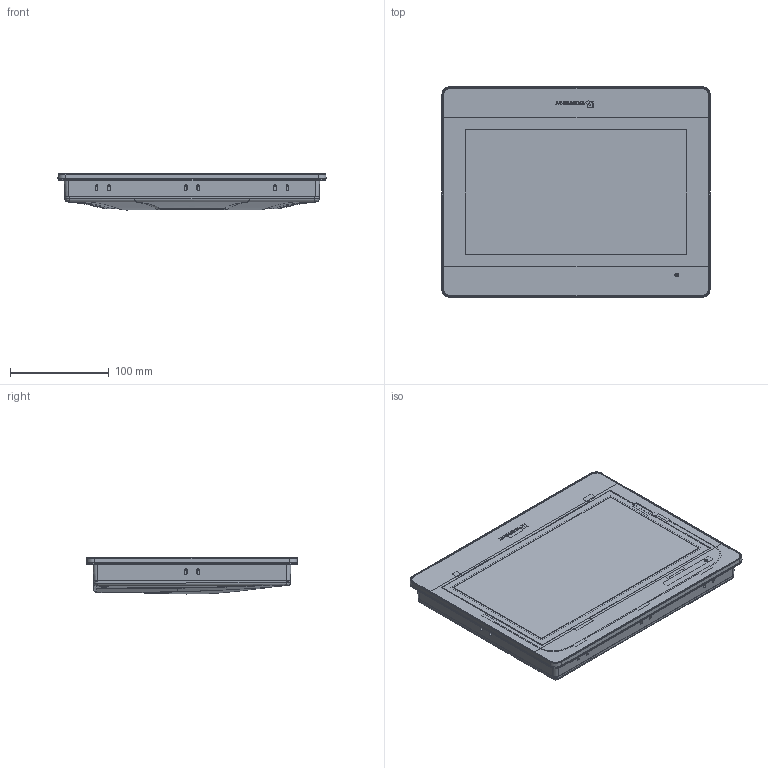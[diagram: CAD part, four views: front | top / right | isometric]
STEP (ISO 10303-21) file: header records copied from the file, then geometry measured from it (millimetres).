
FILE_DESCRIPTION (( 'STEP AP214' ), '1' );
FILE_NAME ('MT8106iQ.STEP', '2023-03-17T05:48:39', ( '' ), ( '' ), 'SwSTEP 2.0', 'SolidWorks 2019', '' );
FILE_SCHEMA (( 'AUTOMOTIVE_DESIGN' ));
Length unit declared in the file: millimetre
Products named in the file (18): User Library-Micro USB; MT8106iQ; DN6110V01; DN6818800; GV6103C10_Pantone 400C; G101STN01.2_150603; TP-150903; MT8106iP_PCBA_221117; FS103100T; PM0SP0110; FEZ810I10_151021; D-SUB (F); FES810210_151021; FEB8A6P00_221102; D-SUB (M); FEF8A6E00_221116; DN5M03P00; FES810211_151021
Assembly tree (19 placements, depth 3):
  MT8106iQ
    FEF8A6E00_221116
    TP-150903
    G101STN01.2_150603
    FES810210_151021  x2
    FES810211_151021  x2
    FEZ810I10_151021
    PM0SP0110
    FS103100T
    MT8106iP_PCBA_221117
      DN6818800
      DN5M03P00
      DN6110V01
      User Library-Micro USB
      D-SUB (M)
      D-SUB (F)
    FEB8A6P00_221102
    GV6103C10_Pantone 400C
Bounding box: 270.93 x 212.93 x 36.39 mm (x, y, z)
Volume: 530910 mm3; surface area: 575120.8 mm2
Topology: 51 solids, 51 shells, 4634 faces, 12869 edges, 8449 vertices
Faces by surface type: plane 2737, cylinder 890, bspline 470, cone 332, torus 190, sphere 15
Full cylindrical faces by diameter (mm): 0.221 x1, 0.4 x2, 0.5 x8, 0.518 x1, 0.6 x9, 0.75 x4, 0.8 x9, 0.9 x9, 1 x17, 2 x2, 2.3 x3, 2.5 x16, 2.72 x18, 2.845 x4, 3 x3, 3.2 x2, 3.6 x2, 3.7 x2
Entity records: 212306 total; most frequent: CARTESIAN_POINT 90221, ORIENTED_EDGE 24978, DIRECTION 19572, EDGE_CURVE 12489, VERTEX_POINT 8310, VECTOR 7806, LINE 7806, AXIS2_PLACEMENT_3D 5883
